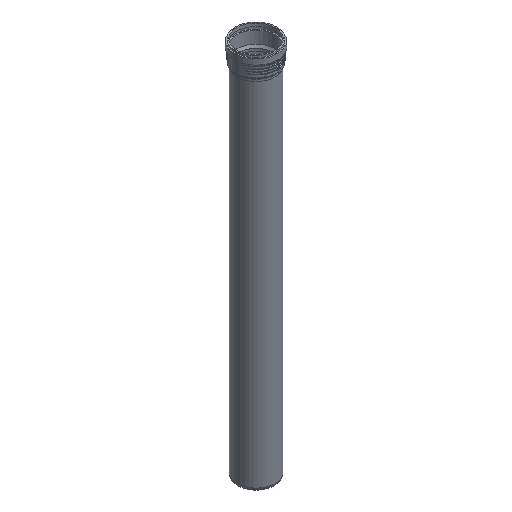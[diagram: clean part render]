
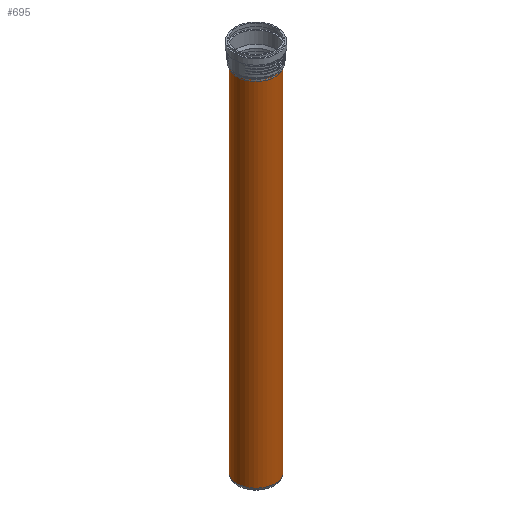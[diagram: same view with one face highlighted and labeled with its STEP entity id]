
A CAD part, isometric view. The second image highlights one B-rep face of the part: STEP entity #695.
In plain terms, the highlighted cylindrical face has radius 80.125 mm (diameter 160.25 mm), a full revolution.
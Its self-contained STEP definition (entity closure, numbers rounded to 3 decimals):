
#94=CYLINDRICAL_SURFACE($,#750,80.125);
#118=FACE_BOUND($,#198,.T.);
#153=FACE_OUTER_BOUND($,#197,.T.);
#197=EDGE_LOOP($,(#472));
#198=EDGE_LOOP($,(#473));
#272=CIRCLE($,#747,80.125);
#274=CIRCLE($,#751,80.125);
#311=VERTEX_POINT($,#1021);
#313=VERTEX_POINT($,#1027);
#382=EDGE_CURVE($,#311,#311,#272,.T.);
#384=EDGE_CURVE($,#313,#313,#274,.T.);
#472=ORIENTED_EDGE($,*,*,#384,.T.);
#473=ORIENTED_EDGE($,*,*,#382,.F.);
#695=ADVANCED_FACE($,(#153,#118),#94,.T.);
#747=AXIS2_PLACEMENT_3D($,#1022,#841,#842);
#750=AXIS2_PLACEMENT_3D($,#1026,#847,#848);
#751=AXIS2_PLACEMENT_3D($,#1028,#849,#850);
#841=DIRECTION('center_axis',(0.,0.,-1.));
#842=DIRECTION('ref_axis',(-1.,0.,0.));
#847=DIRECTION('center_axis',(0.,0.,1.));
#848=DIRECTION('ref_axis',(-1.,0.,0.));
#849=DIRECTION('center_axis',(0.,0.,-1.));
#850=DIRECTION('ref_axis',(-1.,0.,0.));
#1021=CARTESIAN_POINT('',(80.125,0.,-737.));
#1022=CARTESIAN_POINT('Origin',(0.,0.,-737.));
#1026=CARTESIAN_POINT('Origin',(0.,0.,0.));
#1027=CARTESIAN_POINT('',(80.125,0.,746.));
#1028=CARTESIAN_POINT('Origin',(0.,0.,746.));
